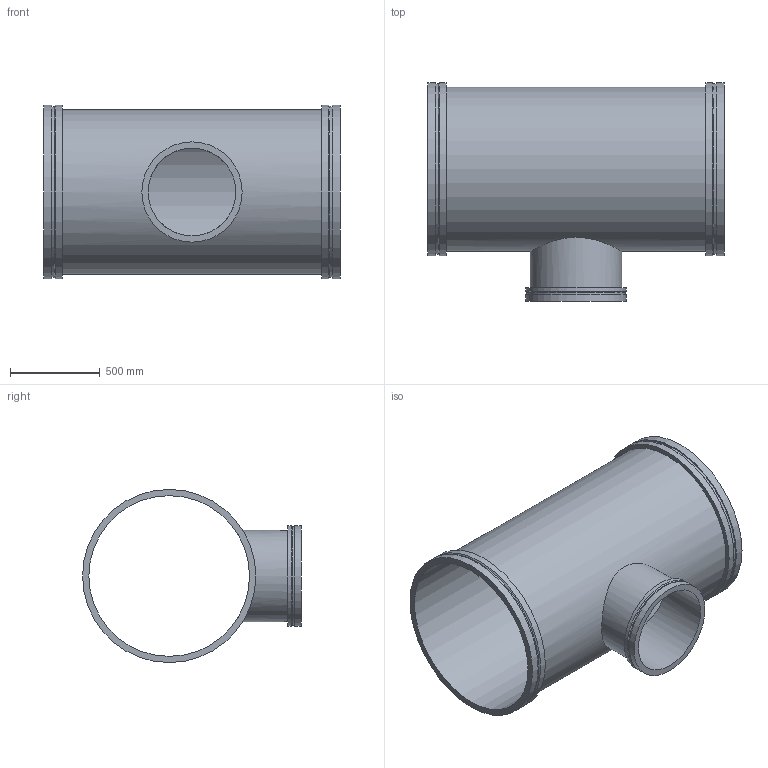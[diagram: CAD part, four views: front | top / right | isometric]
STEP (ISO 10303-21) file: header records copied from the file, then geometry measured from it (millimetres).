
FILE_DESCRIPTION(/* description */ ('VIC REDUCING TEE No W025 VR','CAx-IF Rec.Pracs.---Representation and Presentation of Product Manufacturing Information (PMI)---4.0---2014-10-13'),/* implementation_level */ '2;1');
FILE_NAME(/* name */ 'C:\Users\kkamble\AppData\Roaming\Autodesk\ApplicationPlugins\Back Up\Victaulic_Vic-Ring_Tee Reducing_No W25 VR (AGR)\Victaulic_Vic-Ring_Tee Reducing_No W25 VR (AGR)_36.0x20.0 (900x500).stp',/* time_stamp */ '2020-09-10T11:55:02+05:00',/* author */ ('mchristi'),/* organization */ ('Victaulic'),/* preprocessor_version */ 'ST-DEVELOPER v17.2',/* originating_system */ 'Autodesk Inventor 2019',/* authorisation */ '');
FILE_SCHEMA (('AP242_MANAGED_MODEL_BASED_3D_ENGINEERING_MIM_LF { 1 0 10303 442 1 1 4 }'));
Length unit declared in the file: inch
Products named in the file (1): W25 VR-36.0x20.0
Bounding box: 1651 x 1219.2 x 965.2 mm (x, y, z)
Volume: 65169901.4 mm3; surface area: 10560574.7 mm2
Topology: 1 solids, 1 shells, 25 faces, 68 edges, 52 vertices
Faces by surface type: cylinder 13, plane 9, cone 3
Full cylindrical faces by diameter (mm): 488.95 x1, 508 x1, 546.1 x1, 558.8 x2, 895.35 x1, 914.4 x1, 950.722 x2, 965.2 x4
Entity records: 1251 total; most frequent: CARTESIAN_POINT 407, DIRECTION 190, ORIENTED_EDGE 136, AXIS2_PLACEMENT_3D 87, EDGE_CURVE 68, VERTEX_POINT 52, CIRCLE 48, EDGE_LOOP 36
